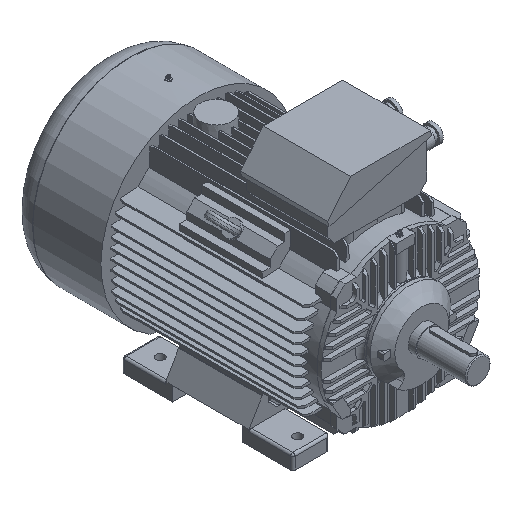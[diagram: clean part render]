
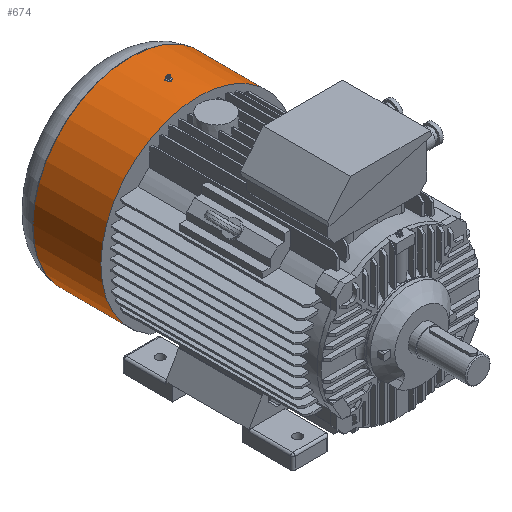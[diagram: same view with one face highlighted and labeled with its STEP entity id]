
A CAD part, isometric view. The second image highlights one B-rep face of the part: STEP entity #674.
In plain terms, the highlighted cylindrical face has radius 216.016 mm (diameter 432.033 mm), a partial arc.
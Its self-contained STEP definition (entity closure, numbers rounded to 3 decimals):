
#674 = ADVANCED_FACE( '', ( #2376, #2377 ), #2378, .T. );
#2376 = FACE_OUTER_BOUND( '', #5207, .T. );
#2377 = FACE_BOUND( '', #5208, .T. );
#2378 = CYLINDRICAL_SURFACE( '', #5209, 216.016 );
#5207 = EDGE_LOOP( '', ( #11131, #11132, #11133, #11134 ) );
#5208 = EDGE_LOOP( '', ( #11135, #11136, #11137, #11138, #11139, #11140 ) );
#5209 = AXIS2_PLACEMENT_3D( '', #11141, #11142, #11143 );
#11131 = ORIENTED_EDGE( '', *, *, #16458, .T. );
#11132 = ORIENTED_EDGE( '', *, *, #14722, .T. );
#11133 = ORIENTED_EDGE( '', *, *, #16459, .T. );
#11134 = ORIENTED_EDGE( '', *, *, #16276, .F. );
#11135 = ORIENTED_EDGE( '', *, *, #16446, .F. );
#11136 = ORIENTED_EDGE( '', *, *, #16456, .F. );
#11137 = ORIENTED_EDGE( '', *, *, #16454, .F. );
#11138 = ORIENTED_EDGE( '', *, *, #16452, .F. );
#11139 = ORIENTED_EDGE( '', *, *, #16450, .F. );
#11140 = ORIENTED_EDGE( '', *, *, #16448, .F. );
#11141 = CARTESIAN_POINT( '', ( 0., 635., 0. ) );
#11142 = DIRECTION( '', ( 0., 1., 0. ) );
#11143 = DIRECTION( '', ( 1., 0., 0. ) );
#14722 = EDGE_CURVE( '', #17607, #17608, #17609, .T. );
#16276 = EDGE_CURVE( '', #20227, #20229, #20230, .T. );
#16446 = EDGE_CURVE( '', #20565, #20567, #20568, .T. );
#16448 = EDGE_CURVE( '', #20567, #20570, #20571, .T. );
#16450 = EDGE_CURVE( '', #20570, #20573, #20574, .T. );
#16452 = EDGE_CURVE( '', #20573, #20576, #20577, .T. );
#16454 = EDGE_CURVE( '', #20576, #20579, #20580, .T. );
#16456 = EDGE_CURVE( '', #20579, #20565, #20582, .T. );
#16458 = EDGE_CURVE( '', #20227, #17607, #20584, .F. );
#16459 = EDGE_CURVE( '', #17608, #20229, #20585, .T. );
#17607 = VERTEX_POINT( '', #22635 );
#17608 = VERTEX_POINT( '', #22636 );
#17609 = CIRCLE( '', #22637, 216.016 );
#20227 = VERTEX_POINT( '', #27965 );
#20229 = VERTEX_POINT( '', #27967 );
#20230 = CIRCLE( '', #27968, 216.016 );
#20565 = VERTEX_POINT( '', #28476 );
#20567 = VERTEX_POINT( '', #28479 );
#20568 = ELLIPSE( '', #28480, 3943.377, 216.016 );
#20570 = VERTEX_POINT( '', #28483 );
#20571 = ELLIPSE( '', #28484, 257.981, 216.016 );
#20573 = VERTEX_POINT( '', #28487 );
#20574 = ELLIPSE( '', #28488, 242.14, 216.016 );
#20576 = VERTEX_POINT( '', #28491 );
#20577 = ELLIPSE( '', #28492, 3943.377, 216.016 );
#20579 = VERTEX_POINT( '', #28495 );
#20580 = ELLIPSE( '', #28496, 257.981, 216.016 );
#20582 = ELLIPSE( '', #28499, 242.14, 216.016 );
#20584 = LINE( '', #28502, #28503 );
#20585 = LINE( '', #28504, #28505 );
#22635 = CARTESIAN_POINT( '', ( 108.389, 592.06, -186.855 ) );
#22636 = CARTESIAN_POINT( '', ( -110.181, 592.06, -185.804 ) );
#22637 = AXIS2_PLACEMENT_3D( '', #31291, #31292, #31293 );
#27965 = CARTESIAN_POINT( '', ( 108.389, 440., -186.855 ) );
#27967 = CARTESIAN_POINT( '', ( -110.181, 440., -185.804 ) );
#27968 = AXIS2_PLACEMENT_3D( '', #33475, #33476, #33477 );
#28476 = CARTESIAN_POINT( '', ( 5.318, 502.096, 215.951 ) );
#28479 = CARTESIAN_POINT( '', ( 5.666, 508.438, 215.942 ) );
#28480 = AXIS2_PLACEMENT_3D( '', #33730, #33731, #33732 );
#28483 = CARTESIAN_POINT( '', ( 0.348, 511.91, 216.016 ) );
#28484 = AXIS2_PLACEMENT_3D( '', #33734, #33735, #33736 );
#28487 = CARTESIAN_POINT( '', ( -5.318, 509.04, 215.951 ) );
#28488 = AXIS2_PLACEMENT_3D( '', #33738, #33739, #33740 );
#28491 = CARTESIAN_POINT( '', ( -5.666, 502.699, 215.942 ) );
#28492 = AXIS2_PLACEMENT_3D( '', #33742, #33743, #33744 );
#28495 = CARTESIAN_POINT( '', ( -0.348, 499.227, 216.016 ) );
#28496 = AXIS2_PLACEMENT_3D( '', #33746, #33747, #33748 );
#28499 = AXIS2_PLACEMENT_3D( '', #33750, #33751, #33752 );
#28502 = CARTESIAN_POINT( '', ( 108.389, 635., -186.855 ) );
#28503 = VECTOR( '', #33754, 1000. );
#28504 = CARTESIAN_POINT( '', ( -110.181, 635., -185.804 ) );
#28505 = VECTOR( '', #33755, 1000. );
#31291 = CARTESIAN_POINT( '', ( 0., 592.06, 0. ) );
#31292 = DIRECTION( '', ( 0., -1., 0. ) );
#31293 = DIRECTION( '', ( 1., 0., 0. ) );
#33475 = CARTESIAN_POINT( '', ( 0., 440., 0. ) );
#33476 = DIRECTION( '', ( 0., -1., 0. ) );
#33477 = DIRECTION( '', ( 1., 0., 0. ) );
#33730 = CARTESIAN_POINT( '', ( 0., 405.166, 0. ) );
#33731 = DIRECTION( '', ( -0.998, 0.055, 0. ) );
#33732 = DIRECTION( '', ( -0.055, -0.998, 0. ) );
#33734 = CARTESIAN_POINT( '', ( 0., 512.137, 0. ) );
#33735 = DIRECTION( '', ( -0.547, -0.837, 0. ) );
#33736 = DIRECTION( '', ( 0.837, -0.547, 0. ) );
#33738 = CARTESIAN_POINT( '', ( 0., 511.733, 0. ) );
#33739 = DIRECTION( '', ( 0.452, -0.892, 0. ) );
#33740 = DIRECTION( '', ( -0.892, -0.452, 0. ) );
#33742 = CARTESIAN_POINT( '', ( 0., 605.971, 0. ) );
#33743 = DIRECTION( '', ( 0.998, -0.055, 0. ) );
#33744 = DIRECTION( '', ( -0.055, -0.998, 0. ) );
#33746 = CARTESIAN_POINT( '', ( 0., 499., 0. ) );
#33747 = DIRECTION( '', ( 0.547, 0.837, 0. ) );
#33748 = DIRECTION( '', ( 0.837, -0.547, 0. ) );
#33750 = CARTESIAN_POINT( '', ( 0., 499.403, 0. ) );
#33751 = DIRECTION( '', ( -0.452, 0.892, 0. ) );
#33752 = DIRECTION( '', ( -0.892, -0.452, 0. ) );
#33754 = DIRECTION( '', ( 0., -1., 0. ) );
#33755 = DIRECTION( '', ( 0., -1., 0. ) );
